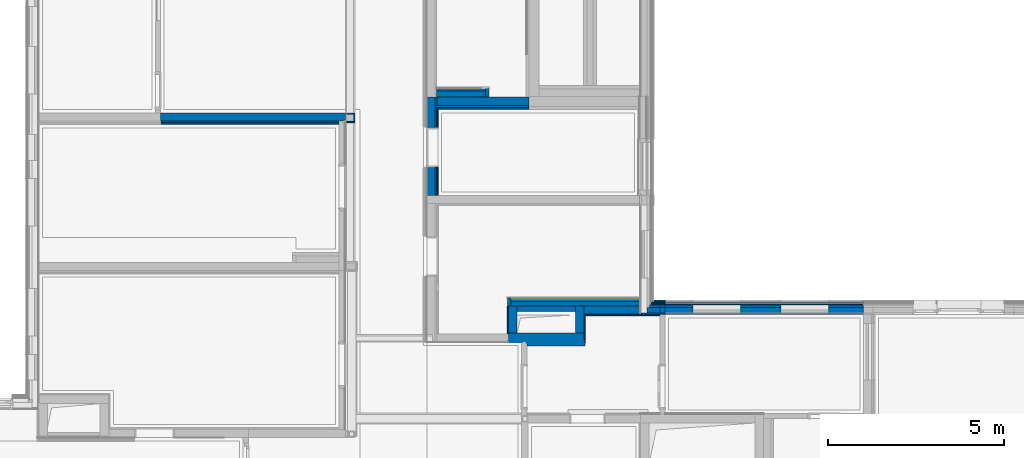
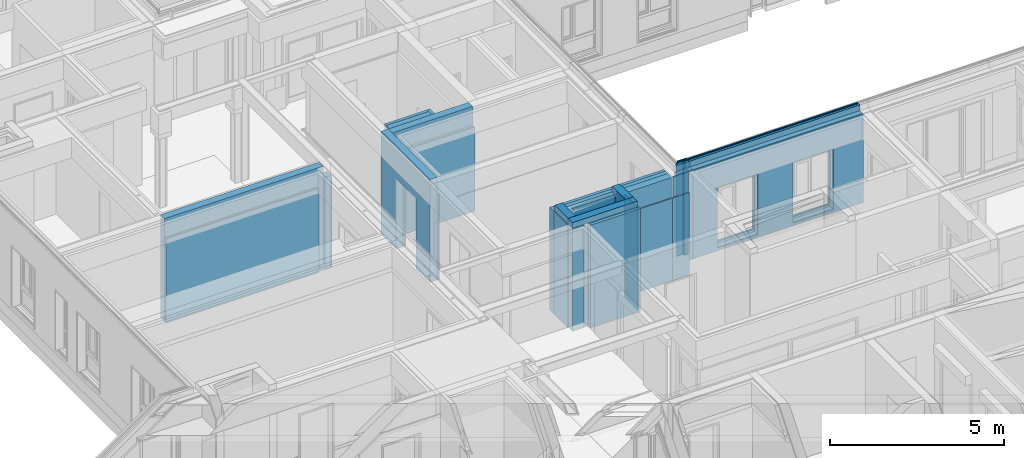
# One storey, part 29 of 207: 50 walls, 15 openings.
"""IFC4 building model written with IfcOpenShell, lengths in metres."""

from ifc_helpers import new_model, entity, si_unit, converted_unit, derived_unit, frame, frame_2d, origin, origin_with_axes, place, context, subcontext, project, spatial, polyline, rectangle, outline, extrude, clip, bounded_halfspace, material, element, save


model = new_model("IFC4")

# Units and contexts
model_context = context("Model", 3, precision=1e-05, world=origin())
body_context = subcontext(model_context, "Body", "Model", "MODEL_VIEW")
ifc_project = project(units=[si_unit("LENGTHUNIT", "METRE"), si_unit("AREAUNIT", "SQUARE_METRE"), si_unit("VOLUMEUNIT", "CUBIC_METRE"), si_unit("MASSUNIT", "GRAM", prefix="KILO"), converted_unit("PLANEANGLEUNIT", "DEGREE", entity("IfcPlaneAngleMeasure", 0.0174532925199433), si_unit("PLANEANGLEUNIT", "RADIAN"), dimensions=[0, 0, 0, 0, 0, 0, 0]), derived_unit("THERMALTRANSMITTANCEUNIT", [(si_unit("POWERUNIT", "WATT"), 1), (si_unit("THERMODYNAMICTEMPERATUREUNIT", "KELVIN"), -1), (si_unit("LENGTHUNIT", "METRE"), -2)]), derived_unit("VOLUMETRICFLOWRATEUNIT", [(si_unit("LENGTHUNIT", "METRE"), 3), (converted_unit("TIMEUNIT", "hour", entity("IfcTimeMeasure", 3600.0), si_unit("TIMEUNIT", "SECOND"), dimensions=[0, 0, 1, 0, 0, 0, 0]), -1), (si_unit("LENGTHUNIT", "METRE"), -1)])], contexts=[model_context])

# Site, building, storey
site_placement = place(None, origin())
site = spatial("IfcSite", under=ifc_project, at=site_placement, Name="Psychiatrie Neubau Wunstorf", CompositionType="ELEMENT")
building_placement = place(site_placement, origin())
building = spatial("IfcBuilding", under=site, at=building_placement, Name="Neubau H2 Stationsgebäude", CompositionType="ELEMENT")
storey_placement = place(building_placement, frame((0.0, 0.0, -0.2)))
storey = spatial("IfcBuildingStorey", under=building, at=storey_placement, Name="H2 Ebene 0", CompositionType="ELEMENT", Elevation=-0.2)

# Walls
ifc_material_1 = material(Name="WA-LB")
wall_1_placement = place(storey_placement, frame((43.9750000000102, 10.1139996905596, 0.5)))
element("IfcWall", 1, at=wall_1_placement, inside=storey, material=ifc_material_1, context=body_context, shape_type="SweptSolid", body=[
    extrude(rectangle(XDim=0.524999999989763, YDim=0.036, at=frame_2d((0.262499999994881, 0.018), x_axis=(1.0, 0.0))), origin_with_axes(), (0.0, 0.0, 1.0), 3.1),
])
ifc_material_2 = material(Name="WA-HD")
wall_2_placement = place(storey_placement, frame((44.1350000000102, 10.1499996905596, 0.5)))
element("IfcWall", 2, at=wall_2_placement, inside=storey, material=ifc_material_2, context=body_context, shape_type="SweptSolid", body=[
    extrude(rectangle(XDim=0.364999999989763, YDim=0.16, at=frame_2d((0.182499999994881, 0.08), x_axis=(1.0, 0.0))), origin_with_axes(), (0.0, 0.0, 1.0), 3.1),
])
ifc_material_3 = material(Name="WA-DL")
wall_3_placement = place(storey_placement, frame((44.2150000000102, 10.3099996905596, 0.5)))
element("IfcWall", 3, at=wall_3_placement, inside=storey, material=ifc_material_3, context=body_context, shape_type="SweptSolid", body=[
    extrude(rectangle(XDim=0.284999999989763, YDim=0.08, at=frame_2d((0.142499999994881, 0.04), x_axis=(1.0, 0.0))), origin_with_axes(), (0.0, 0.0, 1.0), 3.3),
])
ifc_material_4 = material(Name="WA-LB")
wall_4_placement = place(storey_placement, frame((44.2510000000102, 10.3899996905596, 0.5)))
element("IfcWall", 4, at=wall_4_placement, inside=storey, material=ifc_material_4, context=body_context, shape_type="SweptSolid", body=[
    extrude(rectangle(XDim=0.248999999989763, YDim=0.036, at=frame_2d((0.124499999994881, 0.018), x_axis=(1.0, 0.0))), origin_with_axes(), (0.0, 0.0, 1.0), 3.3),
])
ifc_material_5 = material(Name="WA-KL")
wall_5_placement = place(storey_placement, frame((44.2750000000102, 10.4259996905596, 0.5)))
element("IfcWall", 5, at=wall_5_placement, inside=storey, material=ifc_material_5, context=body_context, shape_type="SweptSolid", body=[
    extrude(rectangle(XDim=0.224999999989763, YDim=0.024, at=frame_2d((0.112499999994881, 0.012), x_axis=(1.0, 0.0))), origin_with_axes(), (0.0, 0.0, 1.0), 3.3),
])
ifc_material_6 = material(Name="WA-TL")
wall_6_placement = place(storey_placement, frame((44.2990000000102, 10.4499996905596, 0.5)))
element("IfcWall", 6, at=wall_6_placement, inside=storey, material=ifc_material_6, context=body_context, shape_type="SweptSolid", body=[
    extrude(rectangle(XDim=0.200999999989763, YDim=0.024, at=frame_2d((0.100499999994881, 0.012), x_axis=(1.0, 0.0))), origin_with_axes(), (0.0, 0.0, 1.0), 3.3),
])
ifc_material_7 = material(Name="WA-HS")
wall_7_placement = place(storey_placement, frame((44.3410000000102, 10.4739996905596, 0.5)))
element("IfcWall", 7, at=wall_7_placement, inside=storey, material=ifc_material_7, context=body_context, shape_type="SweptSolid", body=[
    extrude(rectangle(XDim=0.158999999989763, YDim=0.042, at=frame_2d((0.0794999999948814, 0.021), x_axis=(1.0, 0.0))), origin_with_axes(), (0.0, 0.0, 1.0), 3.3),
])
ifc_material_8 = material(Name="WA-LB")
wall_8_placement = place(storey_placement, frame((44.5, 10.1139996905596, 0.5), z_axis=(0.0, 0.0, 1.0), x_axis=(1.0, 2.42531920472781e-14, 0.0)))
element("IfcWall", 8, at=wall_8_placement, inside=storey, material=ifc_material_8, context=body_context, shape_type="SweptSolid", body=[
    extrude(rectangle(XDim=0.15, YDim=0.036, at=frame_2d((0.075, 0.018), x_axis=(1.0, 0.0))), origin_with_axes(), (0.0, 0.0, 1.0), 3.1),
])
ifc_material_9 = material(Name="WA-HD")
wall_9_placement = place(storey_placement, frame((44.5, 10.1499996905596, 0.5), z_axis=(0.0, 0.0, 1.0), x_axis=(1.0, 2.42531920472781e-14, 0.0)))
element("IfcWall", 9, at=wall_9_placement, inside=storey, material=ifc_material_9, context=body_context, shape_type="SweptSolid", body=[
    extrude(rectangle(XDim=0.15, YDim=0.16, at=frame_2d((0.075, 0.08), x_axis=(1.0, 0.0))), origin_with_axes(), (0.0, 0.0, 1.0), 3.1),
])
ifc_material_10 = material(Name="WA-DL")
wall_10_placement = place(storey_placement, frame((44.5, 10.3099996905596, 0.5), z_axis=(0.0, 0.0, 1.0), x_axis=(1.0, 2.42531920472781e-14, 0.0)))
element("IfcWall", 10, at=wall_10_placement, inside=storey, material=ifc_material_10, context=body_context, shape_type="SweptSolid", body=[
    extrude(rectangle(XDim=0.15, YDim=0.08, at=frame_2d((0.075, 0.04), x_axis=(1.0, 0.0))), origin_with_axes(), (0.0, 0.0, 1.0), 3.3),
])
ifc_material_11 = material(Name="WA-TP")
wall_11_placement = place(storey_placement, frame((44.5, 10.3899996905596, 0.5), z_axis=(0.0, 0.0, 1.0), x_axis=(1.0, 2.42531920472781e-14, 0.0)))
element("IfcWall", 11, at=wall_11_placement, inside=storey, material=ifc_material_11, context=body_context, shape_type="SweptSolid", body=[
    extrude(rectangle(XDim=0.15, YDim=0.036, at=frame_2d((0.075, 0.018), x_axis=(1.0, 0.0))), origin_with_axes(), (0.0, 0.0, 1.0), 3.3),
])
ifc_material_12 = material(Name="WA-KL")
wall_12_placement = place(storey_placement, frame((44.5, 10.4259996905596, 0.5), z_axis=(0.0, 0.0, 1.0), x_axis=(1.0, 2.42531920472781e-14, 0.0)))
element("IfcWall", 12, at=wall_12_placement, inside=storey, material=ifc_material_12, context=body_context, shape_type="SweptSolid", body=[
    extrude(rectangle(XDim=0.15, YDim=0.024, at=frame_2d((0.075, 0.012), x_axis=(1.0, 0.0))), origin_with_axes(), (0.0, 0.0, 1.0), 3.3),
])
ifc_material_13 = material(Name="WA-TL")
wall_13_placement = place(storey_placement, frame((44.5, 10.4499996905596, 0.5), z_axis=(0.0, 0.0, 1.0), x_axis=(1.0, 2.42531920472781e-14, 0.0)))
element("IfcWall", 13, at=wall_13_placement, inside=storey, material=ifc_material_13, context=body_context, shape_type="SweptSolid", body=[
    extrude(rectangle(XDim=0.15, YDim=0.024, at=frame_2d((0.075, 0.012), x_axis=(1.0, 0.0))), origin_with_axes(), (0.0, 0.0, 1.0), 3.3),
])
ifc_material_14 = material(Name="WA-HS")
wall_14_placement = place(storey_placement, frame((44.5, 10.4739996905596, 0.5), z_axis=(0.0, 0.0, 1.0), x_axis=(1.0, 2.42531920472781e-14, 0.0)))
element("IfcWall", 14, at=wall_14_placement, inside=storey, material=ifc_material_14, context=body_context, shape_type="SweptSolid", body=[
    extrude(rectangle(XDim=0.15, YDim=0.042, at=frame_2d((0.075, 0.021), x_axis=(1.0, 0.0))), origin_with_axes(), (0.0, 0.0, 1.0), 3.3),
])

# Wall, openings
ifc_material_15 = material(Name="WA-LB")
wall_15_placement = place(storey_placement, frame((44.65, 10.1139996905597, 0.5), z_axis=(0.0, 0.0, 1.0), x_axis=(1.0, -3.22744748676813e-16, 0.0)))
wall_15 = element("IfcWall", 15, at=wall_15_placement, inside=storey, material=ifc_material_15, context=body_context, shape_type="SweptSolid", body=[
    extrude(rectangle(XDim=5.63600000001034, YDim=0.036, at=frame_2d((2.81800000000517, 0.018), x_axis=(1.0, 0.0))), origin_with_axes(), (0.0, 0.0, 1.0), 3.1),
])
opening_1_placement = place(wall_15_placement, frame((4.64870000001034, 0.0359999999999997, 0.1), z_axis=(0.0, -1.0, 0.0), x_axis=(0.0, 0.0, 1.0)))
element("IfcOpeningElement", 16, at=opening_1_placement, cuts=wall_15, Name="Fensteröffnung", ObjectType="Opening", context=body_context, shape_type="SweptSolid", body=[
    extrude(outline(polyline([(2.12, 1.35), (2.12, 0.0), (0.0, 0.0), (0.0, 1.35), (2.12, 1.35)])), origin_with_axes(), (0.0, 0.0, 1.0), 0.036),
])
opening_2_placement = place(wall_15_placement, frame((2.14870000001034, 0.0360000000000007, 0.1), z_axis=(0.0, -1.0, 0.0), x_axis=(0.0, 0.0, 1.0)))
element("IfcOpeningElement", 17, at=opening_2_placement, cuts=wall_15, Name="Fensteröffnung", ObjectType="Opening", context=body_context, shape_type="SweptSolid", body=[
    extrude(outline(polyline([(2.12, 1.35), (2.12, 0.0), (0.0, 0.0), (0.0, 1.35), (2.12, 1.35)])), origin_with_axes(), (0.0, 0.0, 1.0), 0.036),
])

ifc_material_16 = material(Name="WA-HD")
wall_16_placement = place(storey_placement, frame((44.65, 10.1499996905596, 0.5), z_axis=(0.0, 0.0, 1.0), x_axis=(1.0, -3.22744748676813e-16, 0.0)))
wall_16 = element("IfcWall", 18, at=wall_16_placement, inside=storey, material=ifc_material_16, context=body_context, shape_type="SweptSolid", body=[
    extrude(rectangle(XDim=5.63600000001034, YDim=0.16, at=frame_2d((2.81800000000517, 0.08), x_axis=(1.0, 0.0))), origin_with_axes(), (0.0, 0.0, 1.0), 3.1),
])
opening_3_placement = place(wall_16_placement, frame((4.64870000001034, 0.16, 0.1), z_axis=(0.0, -1.0, 0.0), x_axis=(0.0, 0.0, 1.0)))
element("IfcOpeningElement", 19, at=opening_3_placement, cuts=wall_16, Name="Fensteröffnung", ObjectType="Opening", context=body_context, shape_type="SweptSolid", body=[
    extrude(outline(polyline([(2.12, 1.35), (2.12, 0.0), (0.0, 0.0), (0.0, 1.35), (2.12, 1.35)])), origin_with_axes(), (0.0, 0.0, 1.0), 0.16),
])
opening_4_placement = place(wall_16_placement, frame((2.14870000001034, 0.160000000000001, 0.1), z_axis=(0.0, -1.0, 0.0), x_axis=(0.0, 0.0, 1.0)))
element("IfcOpeningElement", 20, at=opening_4_placement, cuts=wall_16, Name="Fensteröffnung", ObjectType="Opening", context=body_context, shape_type="SweptSolid", body=[
    extrude(outline(polyline([(2.12, 1.35), (2.12, 0.0), (0.0, 0.0), (0.0, 1.35), (2.12, 1.35)])), origin_with_axes(), (0.0, 0.0, 1.0), 0.16),
])

ifc_material_17 = material(Name="WA-DL")
wall_17_placement = place(storey_placement, frame((44.65, 10.3099996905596, 0.5), z_axis=(0.0, 0.0, 1.0), x_axis=(1.0, -3.22744748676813e-16, 0.0)))
wall_17 = element("IfcWall", 21, at=wall_17_placement, inside=storey, material=ifc_material_17, context=body_context, shape_type="SweptSolid", body=[
    extrude(rectangle(XDim=5.63600000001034, YDim=0.08, at=frame_2d((2.81800000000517, 0.04), x_axis=(1.0, 0.0))), origin_with_axes(), (0.0, 0.0, 1.0), 3.3),
])
opening_5_placement = place(wall_17_placement, frame((4.64870000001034, 0.0799999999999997, 0.1), z_axis=(0.0, -1.0, 0.0), x_axis=(0.0, 0.0, 1.0)))
element("IfcOpeningElement", 22, at=opening_5_placement, cuts=wall_17, Name="Fensteröffnung", ObjectType="Opening", context=body_context, shape_type="SweptSolid", body=[
    extrude(outline(polyline([(2.12, 1.35), (2.12, 0.0), (0.0, 0.0), (0.0, 1.35), (2.12, 1.35)])), origin_with_axes(), (0.0, 0.0, 1.0), 0.08),
])
opening_6_placement = place(wall_17_placement, frame((2.14870000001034, 0.0800000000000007, 0.1), z_axis=(0.0, -1.0, 0.0), x_axis=(0.0, 0.0, 1.0)))
element("IfcOpeningElement", 23, at=opening_6_placement, cuts=wall_17, Name="Fensteröffnung", ObjectType="Opening", context=body_context, shape_type="SweptSolid", body=[
    extrude(outline(polyline([(2.12, 1.35), (2.12, 0.0), (0.0, 0.0), (0.0, 1.35), (2.12, 1.35)])), origin_with_axes(), (0.0, 0.0, 1.0), 0.08),
])

ifc_material_18 = material(Name="WA-LB")
wall_18_placement = place(storey_placement, frame((44.65, 10.3899996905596, 0.5), z_axis=(0.0, 0.0, 1.0), x_axis=(1.0, -3.22744748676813e-16, 0.0)))
wall_18 = element("IfcWall", 24, at=wall_18_placement, inside=storey, material=ifc_material_18, context=body_context, shape_type="SweptSolid", body=[
    extrude(rectangle(XDim=5.63600000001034, YDim=0.036, at=frame_2d((2.81800000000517, 0.018), x_axis=(1.0, 0.0))), origin_with_axes(), (0.0, 0.0, 1.0), 3.3),
])
opening_7_placement = place(wall_18_placement, frame((4.64870000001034, 0.0359999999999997, 0.1), z_axis=(0.0, -1.0, 0.0), x_axis=(0.0, 0.0, 1.0)))
element("IfcOpeningElement", 25, at=opening_7_placement, cuts=wall_18, Name="Fensteröffnung", ObjectType="Opening", context=body_context, shape_type="SweptSolid", body=[
    extrude(outline(polyline([(2.12, 1.35), (2.12, 0.0), (0.0, 0.0), (0.0, 1.35), (2.12, 1.35)])), origin_with_axes(), (0.0, 0.0, 1.0), 0.036),
])
opening_8_placement = place(wall_18_placement, frame((2.14870000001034, 0.0360000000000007, 0.1), z_axis=(0.0, -1.0, 0.0), x_axis=(0.0, 0.0, 1.0)))
element("IfcOpeningElement", 26, at=opening_8_placement, cuts=wall_18, Name="Fensteröffnung", ObjectType="Opening", context=body_context, shape_type="SweptSolid", body=[
    extrude(outline(polyline([(2.12, 1.35), (2.12, 0.0), (0.0, 0.0), (0.0, 1.35), (2.12, 1.35)])), origin_with_axes(), (0.0, 0.0, 1.0), 0.036),
])

ifc_material_19 = material(Name="WA-KL")
wall_19_placement = place(storey_placement, frame((44.65, 10.4259996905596, 0.5), z_axis=(0.0, 0.0, 1.0), x_axis=(1.0, -3.22744748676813e-16, 0.0)))
wall_19 = element("IfcWall", 27, at=wall_19_placement, inside=storey, material=ifc_material_19, context=body_context, shape_type="SweptSolid", body=[
    extrude(rectangle(XDim=5.63600000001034, YDim=0.024, at=frame_2d((2.81800000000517, 0.012), x_axis=(1.0, 0.0))), origin_with_axes(), (0.0, 0.0, 1.0), 3.3),
])
opening_9_placement = place(wall_19_placement, frame((4.64870000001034, 0.0239999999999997, 0.1), z_axis=(0.0, -1.0, 0.0), x_axis=(0.0, 0.0, 1.0)))
element("IfcOpeningElement", 28, at=opening_9_placement, cuts=wall_19, Name="Fensteröffnung", ObjectType="Opening", context=body_context, shape_type="SweptSolid", body=[
    extrude(outline(polyline([(2.12, 1.35), (2.12, 0.0), (0.0, 0.0), (0.0, 1.35), (2.12, 1.35)])), origin_with_axes(), (0.0, 0.0, 1.0), 0.024),
])
opening_10_placement = place(wall_19_placement, frame((2.14870000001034, 0.0240000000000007, 0.1), z_axis=(0.0, -1.0, 0.0), x_axis=(0.0, 0.0, 1.0)))
element("IfcOpeningElement", 29, at=opening_10_placement, cuts=wall_19, Name="Fensteröffnung", ObjectType="Opening", context=body_context, shape_type="SweptSolid", body=[
    extrude(outline(polyline([(2.12, 1.35), (2.12, 0.0), (0.0, 0.0), (0.0, 1.35), (2.12, 1.35)])), origin_with_axes(), (0.0, 0.0, 1.0), 0.024),
])

ifc_material_20 = material(Name="WA-TL")
wall_20_placement = place(storey_placement, frame((44.65, 10.4499996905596, 0.5), z_axis=(0.0, 0.0, 1.0), x_axis=(1.0, -3.22744748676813e-16, 0.0)))
wall_20 = element("IfcWall", 30, at=wall_20_placement, inside=storey, material=ifc_material_20, context=body_context, shape_type="SweptSolid", body=[
    extrude(rectangle(XDim=5.63600000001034, YDim=0.024, at=frame_2d((2.81800000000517, 0.012), x_axis=(1.0, 0.0))), origin_with_axes(), (0.0, 0.0, 1.0), 3.3),
])
opening_11_placement = place(wall_20_placement, frame((4.64870000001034, 0.0239999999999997, 0.1), z_axis=(0.0, -1.0, 0.0), x_axis=(0.0, 0.0, 1.0)))
element("IfcOpeningElement", 31, at=opening_11_placement, cuts=wall_20, Name="Fensteröffnung", ObjectType="Opening", context=body_context, shape_type="SweptSolid", body=[
    extrude(outline(polyline([(2.12, 1.35), (2.12, 0.0), (0.0, 0.0), (0.0, 1.35), (2.12, 1.35)])), origin_with_axes(), (0.0, 0.0, 1.0), 0.024),
])
opening_12_placement = place(wall_20_placement, frame((2.14870000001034, 0.0240000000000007, 0.1), z_axis=(0.0, -1.0, 0.0), x_axis=(0.0, 0.0, 1.0)))
element("IfcOpeningElement", 32, at=opening_12_placement, cuts=wall_20, Name="Fensteröffnung", ObjectType="Opening", context=body_context, shape_type="SweptSolid", body=[
    extrude(outline(polyline([(2.12, 1.35), (2.12, 0.0), (0.0, 0.0), (0.0, 1.35), (2.12, 1.35)])), origin_with_axes(), (0.0, 0.0, 1.0), 0.024),
])

# Walls
ifc_material_21 = material(Name="WI-IW")
wall_21_placement = place(storey_placement, frame((44.5, 10.1139998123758, 0.0), z_axis=(0.0, 0.0, 1.0), x_axis=(-1.0, 0.0, 0.0)))
element("IfcWall", 33, at=wall_21_placement, inside=storey, material=ifc_material_21, context=body_context, shape_type="SweptSolid", body=[
    extrude(rectangle(XDim=0.560999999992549, YDim=0.04, at=frame_2d((0.280499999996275, 0.02), x_axis=(1.0, 0.0))), origin_with_axes(), (0.0, 0.0, 1.0), 2.9),
])
ifc_material_22 = material(Name="WI-LB")
wall_22_placement = place(storey_placement, frame((38.1645, 15.9355060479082, 0.0)))
element("IfcWall", 34, at=wall_22_placement, inside=storey, material=ifc_material_22, context=body_context, shape_type="SweptSolid", body=[
    extrude(rectangle(XDim=2.61450000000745, YDim=0.0395, at=frame_2d((1.30725000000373, 0.01975), x_axis=(1.0, 0.0))), origin_with_axes(), (0.0, 0.0, 1.0), 2.95),
])
ifc_material_23 = material(Name="Installationsraum")
wall_23_placement = place(storey_placement, frame((38.1145, 15.9750060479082, 0.0)))
element("IfcWall", 35, at=wall_23_placement, inside=storey, material=ifc_material_23, context=body_context, shape_type="SweptSolid", body=[
    extrude(rectangle(XDim=2.66450000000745, YDim=0.075, at=frame_2d((1.33225000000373, 0.0375), x_axis=(1.0, 0.0))), origin_with_axes(), (0.0, 0.0, 1.0), 2.95),
])
ifc_material_24 = material(Name="WI-HW 60")
wall_24_placement = place(storey_placement, frame((38.1145, 16.0500060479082, 0.0)))
element("IfcWall", 36, at=wall_24_placement, inside=storey, material=ifc_material_24, context=body_context, shape_type="SweptSolid", body=[
    extrude(rectangle(XDim=2.66450000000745, YDim=0.232, at=frame_2d((1.33225000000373, 0.116), x_axis=(1.0, 0.0))), origin_with_axes(), (0.0, 0.0, 1.0), 3.6),
])

# Wall, opening
ifc_material_25 = material(Name="WI-LB")
wall_25_placement = place(storey_placement, frame((38.204, 13.489496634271, 0.0), z_axis=(0.0, 0.0, 1.0), x_axis=(0.0, 1.0, 0.0)))
wall_25 = element("IfcWall", 37, at=wall_25_placement, inside=storey, material=ifc_material_25, context=body_context, shape_type="SweptSolid", body=[
    extrude(rectangle(XDim=2.44600941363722, YDim=0.0395, at=frame_2d((1.22300470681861, 0.01975), x_axis=(1.0, 0.0))), origin_with_axes(), (0.0, 0.0, 1.0), 2.95),
])
opening_13_placement = place(wall_25_placement, frame((1.93550336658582, 0.0395, 0.0), z_axis=(0.0, -1.0, 0.0), x_axis=(0.0, 0.0, 1.0)))
element("IfcOpeningElement", 38, at=opening_13_placement, cuts=wall_25, Name="Türöffnung", ObjectType="Opening", context=body_context, shape_type="SweptSolid", body=[
    extrude(outline(polyline([(2.46, 1.135), (2.46, 0.0), (0.0, 0.0), (0.0, 1.135), (2.46, 1.135)])), origin_with_axes(), (0.0, 0.0, 1.0), 0.0395),
])

ifc_material_26 = material(Name="Installationsraum")
wall_26_placement = place(storey_placement, frame((38.1645, 13.489496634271, 0.0), z_axis=(0.0, 0.0, 1.0), x_axis=(0.0, 1.0, 0.0)))
wall_26 = element("IfcWall", 39, at=wall_26_placement, inside=storey, material=ifc_material_26, context=body_context, shape_type="SweptSolid", body=[
    extrude(rectangle(XDim=2.48550941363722, YDim=0.05, at=frame_2d((1.24275470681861, 0.025), x_axis=(1.0, 0.0))), origin_with_axes(), (0.0, 0.0, 1.0), 2.95),
    extrude(rectangle(XDim=0.232, YDim=0.05, at=frame_2d((0.116, 0.025), x_axis=(1.0, 0.0))), frame((2.56050941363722, 0.0, 0.0), z_axis=(0.0, 0.0, 1.0), x_axis=(1.0, 0.0, 0.0)), (0.0, 0.0, 1.0), 2.95),
])
opening_14_placement = place(wall_26_placement, frame((1.93550336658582, 0.05, 0.0), z_axis=(0.0, -1.0, 0.0), x_axis=(0.0, 0.0, 1.0)))
element("IfcOpeningElement", 40, at=opening_14_placement, cuts=wall_26, Name="Türöffnung", ObjectType="Opening", context=body_context, shape_type="SweptSolid", body=[
    extrude(outline(polyline([(2.46, 1.135), (2.46, 0.0), (0.0, 0.0), (0.0, 1.135), (2.46, 1.135)])), origin_with_axes(), (0.0, 0.0, 1.0), 0.05),
])

ifc_material_27 = material(Name="WI-HW 60")
wall_27_placement = place(storey_placement, frame((38.1145, 13.489496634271, 0.0), z_axis=(0.0, 0.0, 1.0), x_axis=(0.0, 1.0, 0.0)))
wall_27 = element("IfcWall", 41, at=wall_27_placement, inside=storey, material=ifc_material_27, context=body_context, shape_type="SweptSolid", body=[
    extrude(rectangle(XDim=2.79250941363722, YDim=0.232, at=frame_2d((1.39625470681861, 0.116), x_axis=(1.0, 0.0))), origin_with_axes(), (0.0, 0.0, 1.0), 3.6),
])
opening_15_placement = place(wall_27_placement, frame((1.93550336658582, 0.232, 0.0), z_axis=(0.0, -1.0, 0.0), x_axis=(0.0, 0.0, 1.0)))
element("IfcOpeningElement", 42, at=opening_15_placement, cuts=wall_27, Name="Türöffnung", ObjectType="Opening", context=body_context, shape_type="SweptSolid", body=[
    extrude(outline(polyline([(2.46, 1.135), (2.46, 0.0), (0.0, 0.0), (0.0, 1.135), (2.46, 1.135)])), origin_with_axes(), (0.0, 0.0, 1.0), 0.232),
])

# Walls
ifc_material_28 = material(Name="WI-STB")
wall_28_placement = place(storey_placement, frame((42.099951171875, 10.3460015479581, 0.0), z_axis=(0.0, 0.0, 1.0), x_axis=(0.0, -1.0, 0.0)))
element("IfcWall", 43, at=wall_28_placement, inside=storey, material=ifc_material_28, context=body_context, shape_type="SweptSolid", body=[
    extrude(rectangle(XDim=0.761005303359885, YDim=0.25, at=frame_2d((0.380502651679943, 0.125), x_axis=(1.0, 0.0))), origin_with_axes(), (0.0, 0.0, 1.0), 3.8),
])
ifc_material_29 = material(Name="Installationsraum")
wall_29_placement = place(storey_placement, frame((38.154, 16.2820060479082, 0.0)))
element("IfcWall", 44, at=wall_29_placement, inside=storey, material=ifc_material_29, context=body_context, shape_type="SweptSolid", body=[
    extrude(rectangle(XDim=1.4, YDim=0.175, at=frame_2d((0.7, 0.0875), x_axis=(1.0, 0.0))), origin_with_axes(), (0.0, 0.0, 1.0), 3.6),
])
ifc_material_30 = material(Name="WI-VS")
wall_30_placement = place(storey_placement, frame((38.154, 16.4570060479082, 0.0)))
element("IfcWall", 45, at=wall_30_placement, inside=storey, material=ifc_material_30, context=body_context, shape_type="SweptSolid", body=[
    extrude(rectangle(XDim=1.4, YDim=0.1, at=frame_2d((0.7, 0.05), x_axis=(1.0, 0.0))), origin_with_axes(), (0.0, 0.0, 1.0), 3.6),
])
ifc_material_31 = material(Name="WI-IW")
wall_31_placement = place(storey_placement, frame((39.554, 16.5570060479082, 0.0), z_axis=(0.0, 0.0, 1.0), x_axis=(0.0, -1.0, 0.0)))
element("IfcWall", 46, at=wall_31_placement, inside=storey, material=ifc_material_31, context=body_context, shape_type="SweptSolid", body=[
    extrude(rectangle(XDim=0.275, YDim=0.1, at=frame_2d((0.1375, 0.05), x_axis=(1.0, 0.0))), origin_with_axes(), (0.0, 0.0, 1.0), 3.6),
])
ifc_material_32 = material(Name="WI-IW")
wall_32_placement = place(storey_placement, frame((43.9390003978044, 10.5809969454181, 0.0), z_axis=(0.0, 0.0, 1.0), x_axis=(-0.999999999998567, 1.69275313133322e-06, 0.0)))
element("IfcWall", 47, at=wall_32_placement, inside=storey, material=ifc_material_32, context=body_context, shape_type="SweptSolid", body=[
    extrude(rectangle(XDim=3.66904846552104, YDim=0.0999999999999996, at=frame_2d((1.83452423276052, 0.0499999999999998), x_axis=(1.0, 0.0))), origin_with_axes(), (0.0, 0.0, 1.0), 3.6),
])
ifc_material_33 = material(Name="Installationsraum")
wall_33_placement = place(storey_placement, frame((43.9390002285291, 10.4809969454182, 0.0), z_axis=(0.0, 0.0, 1.0), x_axis=(-0.999999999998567, 1.69275313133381e-06, 0.0)))
element("IfcWall", 48, at=wall_33_placement, inside=storey, material=ifc_material_33, context=body_context, shape_type="SweptSolid", body=[
    extrude(outline(polyline([(-3.66904846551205, -0.135003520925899), (0.0, -0.135003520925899), (0.0, -3.52092589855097e-06), (-2.07999963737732, -3.52092589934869e-06), (-3.66904846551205, -6.38788323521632e-06), (-3.66904846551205, -0.135003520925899)])), frame((3.66904846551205, 0.135003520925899, 0.0), z_axis=(0.0, 0.0, 1.0), x_axis=(1.0, 0.0, 0.0)), (0.0, 0.0, 1.0), 3.6),
])
ifc_material_34 = material(Name="WI-IW")
wall_34_placement = place(storey_placement, frame((40.1699519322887, 10.5810032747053, 0.0), z_axis=(0.0, 0.0, 1.0), x_axis=(-1.69274020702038e-06, -0.999999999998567, 0.0)))
element("IfcWall", 49, at=wall_34_placement, inside=storey, material=ifc_material_34, context=body_context, shape_type="SweptSolid", body=[
    extrude(rectangle(XDim=0.235000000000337, YDim=0.0999999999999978, at=frame_2d((0.117500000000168, 0.0499999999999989), x_axis=(1.0, 0.0))), origin_with_axes(), (0.0, 0.0, 1.0), 3.6),
])
ifc_material_35 = material(Name="WI-LB")
wall_35_placement = place(storey_placement, frame((40.199951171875, 9.32249624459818, 0.0)))
element("IfcWall", 50, at=wall_35_placement, inside=storey, material=ifc_material_35, context=body_context, shape_type="SweptSolid", body=[
    extrude(rectangle(XDim=0.37504638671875, YDim=0.0125, at=frame_2d((0.187523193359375, 0.00625), x_axis=(1.0, 0.0))), origin_with_axes(), (0.0, 0.0, 1.0), 3.6),
])
ifc_material_36 = material(Name="WI-LB")
wall_36_placement = place(storey_placement, frame((42.349951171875, 10.0739998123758, 0.0), z_axis=(0.0, 0.0, 1.0), x_axis=(0.0, -1.0, 0.0)))
element("IfcWall", 51, at=wall_36_placement, inside=storey, material=ifc_material_36, context=body_context, shape_type="SweptSolid", body=[
    extrude(rectangle(XDim=0.764003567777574, YDim=0.0299996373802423, at=frame_2d((0.382001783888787, 0.0149998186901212), x_axis=(1.0, 0.0))), origin_with_axes(), (0.0, 0.0, 1.0), 3.6),
])
ifc_material_37 = material(Name="WI-LB")
wall_37_placement = place(storey_placement, frame((40.199951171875, 9.55599624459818, 0.0), z_axis=(0.0, 0.0, 1.0), x_axis=(0.0, 1.0, 0.0)))
element("IfcWall", 52, at=wall_37_placement, inside=storey, material=ifc_material_37, context=body_context, shape_type="SweptSolid", body=[
    extrude(rectangle(XDim=0.790003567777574, YDim=0.0299996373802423, at=frame_2d((0.395001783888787, 0.0149998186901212), x_axis=(1.0, 0.0))), origin_with_axes(), (0.0, 0.0, 1.0), 3.6),
])
ifc_material_38 = material(Name="BS Beplankung")
wall_38_placement = place(storey_placement, frame((35.836, 15.5604990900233, 0.0), z_axis=(0.0, 0.0, 1.0), x_axis=(0.0, 1.0, 0.0)))
element("IfcWall", 53, at=wall_38_placement, inside=storey, material=ifc_material_38, context=body_context, shape_type="SweptSolid", body=[
    extrude(rectangle(XDim=0.272, YDim=0.036, at=frame_2d((0.136, 0.018), x_axis=(1.0, 0.0))), origin_with_axes(), (0.0, 0.0, 1.0), 3.2),
])
ifc_material_39 = material(Name="BS Beplankung")
wall_39_placement = place(storey_placement, frame((35.6, 15.5604990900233, 0.0)))
element("IfcWall", 54, at=wall_39_placement, inside=storey, material=ifc_material_39, context=body_context, shape_type="Clipping", body=[
    clip(extrude(rectangle(XDim=0.21, YDim=0.036, at=frame_2d((0.105, 0.018), x_axis=(1.0, 0.0))), origin_with_axes(), (0.0, 0.0, 1.0), 3.6), bounded_halfspace(frame((0.1, 0.018, 3.2), z_axis=(0.0, 0.0, -1.0), x_axis=(0.0, -1.0, 0.0)), True, origin_with_axes(), polyline([(0.0, 0.036), (0.0, 0.0), (0.2, 0.0), (0.2, 0.036), (0.0, 0.036)]))),
])
ifc_material_40 = material(Name="BS Beplankung")
wall_40_placement = place(storey_placement, frame((35.8, 15.8324990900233, 0.0), z_axis=(0.0, 0.0, 1.0), x_axis=(-1.0, 0.0, 0.0)))
element("IfcWall", 55, at=wall_40_placement, inside=storey, material=ifc_material_40, context=body_context, shape_type="SweptSolid", body=[
    extrude(rectangle(XDim=0.2, YDim=0.036, at=frame_2d((0.1, 0.018), x_axis=(1.0, 0.0))), origin_with_axes(), (0.0, 0.0, 1.0), 3.2),
])
ifc_material_41 = material(Name="WI-LB")
wall_41_placement = place(storey_placement, frame((30.3168490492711, 15.5104990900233, 0.0)))
element("IfcWall", 56, at=wall_41_placement, inside=storey, material=ifc_material_41, context=body_context, shape_type="SweptSolid", body=[
    extrude(rectangle(XDim=5.06315095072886, YDim=0.04, at=frame_2d((2.53157547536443, 0.02), x_axis=(1.0, 0.0))), origin_with_axes(), (0.0, 0.0, 1.0), 2.95),
])
ifc_material_42 = material(Name="Installationsraum")
wall_42_placement = place(storey_placement, frame((30.3168490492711, 15.5504990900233, 0.0)))
element("IfcWall", 57, at=wall_42_placement, inside=storey, material=ifc_material_42, context=body_context, shape_type="SweptSolid", body=[
    extrude(rectangle(XDim=5.06315095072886, YDim=0.05, at=frame_2d((2.53157547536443, 0.025), x_axis=(1.0, 0.0))), origin_with_axes(), (0.0, 0.0, 1.0), 2.95),
])
ifc_material_43 = material(Name="WI-HW 60")
wall_43_placement = place(storey_placement, frame((30.3168490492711, 15.6004990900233, 0.0)))
element("IfcWall", 58, at=wall_43_placement, inside=storey, material=ifc_material_43, context=body_context, shape_type="SweptSolid", body=[
    extrude(rectangle(XDim=5.25315095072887, YDim=0.232, at=frame_2d((2.62657547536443, 0.116), x_axis=(1.0, 0.0))), origin_with_axes(), (0.0, 0.0, 1.0), 3.6),
])
ifc_material_44 = material(Name="WI-LB")
wall_44_placement = place(storey_placement, frame((42.099951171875, 10.3459998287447, 0.0), z_axis=(0.0, 0.0, 1.0), x_axis=(-1.0, 0.0, 0.0)))
element("IfcWall", 59, at=wall_44_placement, inside=storey, material=ifc_material_44, context=body_context, shape_type="SweptSolid", body=[
    extrude(rectangle(XDim=1.65, YDim=0.15, at=frame_2d((0.825, 0.075), x_axis=(1.0, 0.0))), origin_with_axes(), (0.0, 0.0, 1.0), 3.6),
])
ifc_material_45 = material(Name="WI-STB")
wall_45_placement = place(storey_placement, frame((42.349951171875, 9.58499624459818, 0.0), z_axis=(0.0, 0.0, 1.0), x_axis=(-1.0, 0.0, 0.0)))
element("IfcWall", 60, at=wall_45_placement, inside=storey, material=ifc_material_45, context=body_context, shape_type="SweptSolid", body=[
    extrude(rectangle(XDim=2.15, YDim=0.25, at=frame_2d((1.075, 0.125), x_axis=(1.0, 0.0))), origin_with_axes(), (0.0, 0.0, 1.0), 3.8),
])
ifc_material_46 = material(Name="WI-IW")
wall_46_placement = place(storey_placement, frame((40.7249975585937, 9.20999624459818, 0.0)))
element("IfcWall", 61, at=wall_46_placement, inside=storey, material=ifc_material_46, context=body_context, shape_type="SweptSolid", body=[
    extrude(rectangle(XDim=1.65495325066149, YDim=0.1, at=frame_2d((0.827476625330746, 0.05), x_axis=(1.0, 0.0))), origin_with_axes(), (0.0, 0.0, 1.0), 3.6),
])
ifc_material_47 = material(Name="Installationsraum")
wall_47_placement = place(storey_placement, frame((40.7249975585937, 9.30999624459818, 0.0)))
element("IfcWall", 62, at=wall_47_placement, inside=storey, material=ifc_material_47, context=body_context, shape_type="SweptSolid", body=[
    extrude(rectangle(XDim=1.62495361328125, YDim=0.025, at=frame_2d((0.812476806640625, 0.0125), x_axis=(1.0, 0.0))), origin_with_axes(), (0.0, 0.0, 1.0), 3.6),
])
ifc_material_48 = material(Name="WI-LB")
wall_48_placement = place(storey_placement, frame((42.349951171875, 10.0739998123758, 0.0)))
element("IfcWall", 63, at=wall_48_placement, inside=storey, material=ifc_material_48, context=body_context, shape_type="SweptSolid", body=[
    extrude(rectangle(XDim=1.58904882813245, YDim=0.04, at=frame_2d((0.794524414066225, 0.02), x_axis=(1.0, 0.0))), origin_with_axes(), (0.0, 0.0, 1.0), 2.9),
])
ifc_material_49 = material(Name="WI-HW 60")
wall_49_placement = place(storey_placement, frame((42.349951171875, 10.1139998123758, 0.0)))
element("IfcWall", 64, at=wall_49_placement, inside=storey, material=ifc_material_49, context=body_context, shape_type="SweptSolid", body=[
    extrude(rectangle(XDim=1.58904882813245, YDim=0.232, at=frame_2d((0.794524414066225, 0.116), x_axis=(1.0, 0.0))), origin_with_axes(), (0.0, 0.0, 1.0), 3.6),
])
ifc_material_50 = material(Name="WI-STB")
wall_50_placement = place(storey_placement, frame((40.449951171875, 9.58499624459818, 0.0), z_axis=(0.0, 0.0, 1.0), x_axis=(0.0, 1.0, 0.0)))
element("IfcWall", 65, at=wall_50_placement, inside=storey, material=ifc_material_50, context=body_context, shape_type="SweptSolid", body=[
    extrude(rectangle(XDim=0.761006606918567, YDim=0.250000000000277, at=frame_2d((0.380503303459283, 0.125000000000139), x_axis=(1.0, 0.0))), origin_with_axes(), (0.0, 0.0, 1.0), 3.8),
])

save(model, "model.ifc")
